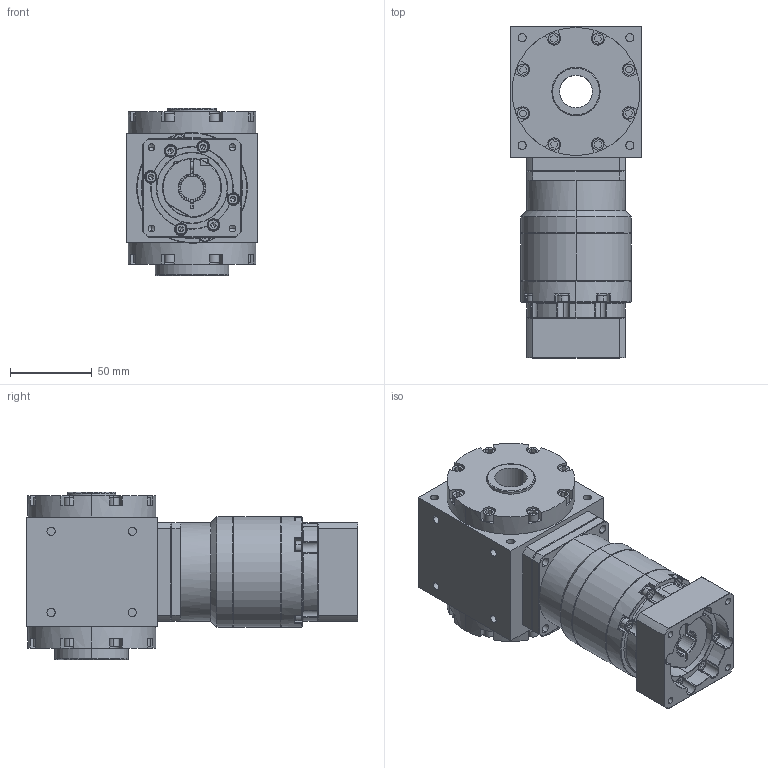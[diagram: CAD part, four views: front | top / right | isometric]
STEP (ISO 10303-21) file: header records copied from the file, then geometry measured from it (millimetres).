
FILE_DESCRIPTION (( 'STEP AP203' ), '1' );
FILE_NAME ('AAW080AS-L2-RF 14-50-70-M5.STEP', '2024-12-24T00:54:19', ( '' ), ( '' ), 'SwSTEP 2.0', 'SolidWorks 2021', '' );
FILE_SCHEMA (( 'CONFIG_CONTROL_DESIGN' ));
Length unit declared in the file: millimetre
Products named in the file (3): VRB-060-L2-S2-P1 14-50-70-M5; AAW080AS-L2-RF 14-50-70-M5; AAW080AS-RF
Assembly tree (2 placements, depth 2):
  AAW080AS-L2-RF 14-50-70-M5
    AAW080AS-RF
    VRB-060-L2-S2-P1 14-50-70-M5
Bounding box: 80 x 202.5 x 102 mm (x, y, z)
Volume: 818633.5 mm3; surface area: 133198.4 mm2
Topology: 33 solids, 33 shells, 1300 faces, 3169 edges, 1997 vertices
Faces by surface type: plane 596, cylinder 442, cone 196, torus 50, bspline 16
Entity records: 39016 total; most frequent: CARTESIAN_POINT 7776, DIRECTION 6788, ORIENTED_EDGE 6242, EDGE_CURVE 3121, AXIS2_PLACEMENT_3D 2610, VERTEX_POINT 1997, VECTOR 1568, LINE 1568
